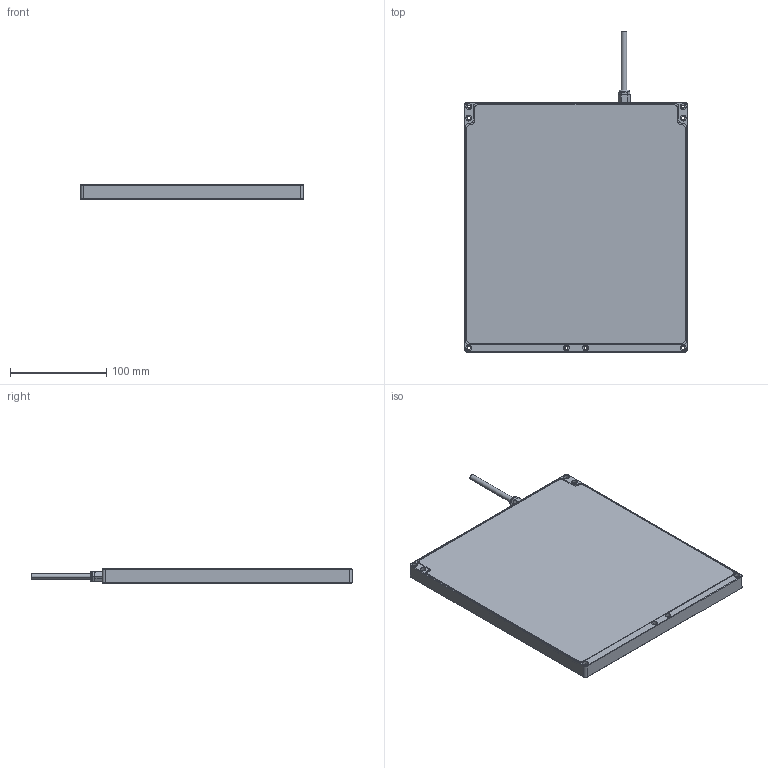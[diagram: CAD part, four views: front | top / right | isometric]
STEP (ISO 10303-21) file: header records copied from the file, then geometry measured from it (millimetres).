
FILE_DESCRIPTION (( 'STEP AP214' ), '1' );
FILE_NAME ('EFFI-SBL-225-225.STEP', '2026-09-10T12:13:05', ( '' ), ( '' ), 'SwSTEP 2.0', 'SolidWorks 2025', '' );
FILE_SCHEMA (( 'AUTOMOTIVE_DESIGN' ));
Length unit declared in the file: millimetre
Products named in the file (3): EFFI-SBL-225-225; 000121_Avec cable; empreinte sbl 225-225 client
Assembly tree (2 placements, depth 2):
  EFFI-SBL-225-225
    empreinte sbl 225-225 client
    000121_Avec cable
Bounding box: 232 x 333.35 x 15 mm (x, y, z)
Volume: 888318 mm3; surface area: 145500.5 mm2
Topology: 1 solids, 15 shells, 259 faces, 636 edges, 406 vertices
Faces by surface type: cylinder 125, plane 100, cone 20, torus 8, bspline 6
Entity records: 7823 total; most frequent: DIRECTION 1434, CARTESIAN_POINT 1385, ORIENTED_EDGE 1240, EDGE_CURVE 624, AXIS2_PLACEMENT_3D 551, VERTEX_POINT 406, VECTOR 332, LINE 332
